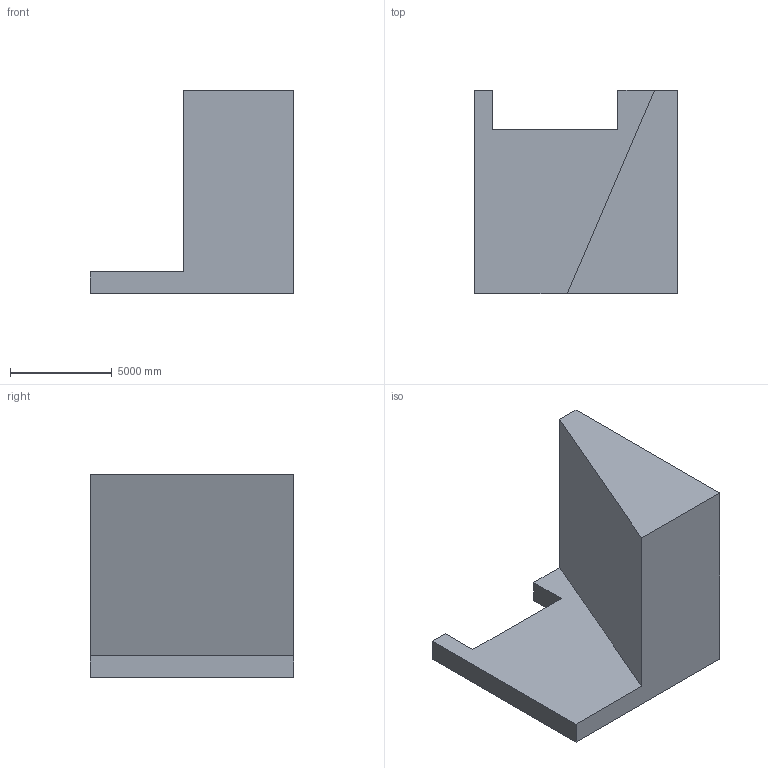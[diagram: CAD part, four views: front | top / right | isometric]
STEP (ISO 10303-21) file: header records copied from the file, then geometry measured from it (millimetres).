
FILE_DESCRIPTION (( 'STEP AP203' ), '1' );
FILE_NAME ('3.STEP', '2022-07-28T13:22:56', ( 'user' ), ( '' ), 'SwSTEP 2.0', 'SolidWorks 2021', '' );
FILE_SCHEMA (( 'CONFIG_CONTROL_DESIGN' ));
Length unit declared in the file: centimetre
Products named in the file (1): 3
Bounding box: 10000 x 10000 x 10000 mm (x, y, z)
Volume: 388075442386.7 mm3; surface area: 468506945.7 mm2
Topology: 1 solids, 1 shells, 12 faces, 30 edges, 20 vertices
Faces by surface type: plane 12
Entity records: 431 total; most frequent: CARTESIAN_POINT 63, ORIENTED_EDGE 60, DIRECTION 56, LINE 30, VECTOR 30, EDGE_CURVE 30, VERTEX_POINT 20, AXIS2_PLACEMENT_3D 13
